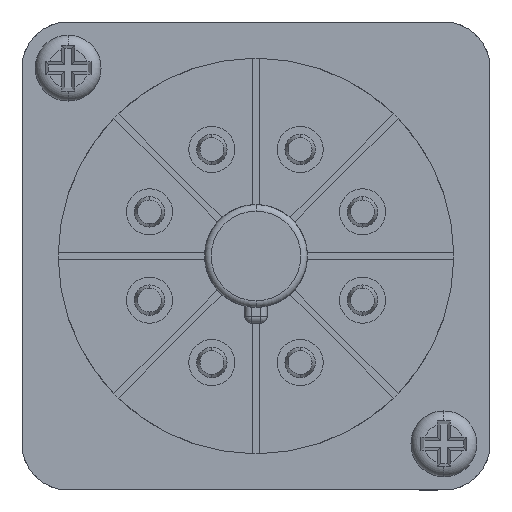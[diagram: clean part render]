
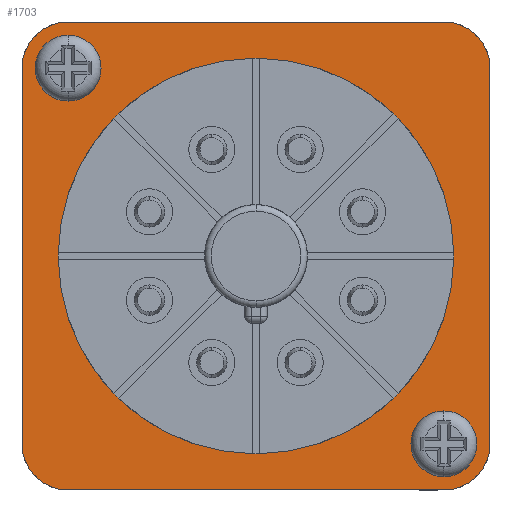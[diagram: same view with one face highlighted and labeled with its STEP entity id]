
A CAD part, front view. The second image highlights one B-rep face of the part: STEP entity #1703.
In plain terms, the highlighted planar face has unit normal (0, -1, 0).
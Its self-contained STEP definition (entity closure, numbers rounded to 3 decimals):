
#62 = EDGE_CURVE ( 'NONE', #4180, #4178, #5780, .T. ) ;
#63 = EDGE_CURVE ( 'NONE', #4183, #4182, #5783, .T. ) ;
#195 = PLANE ( 'NONE',  #2356 ) ;
#196 = CARTESIAN_POINT ( 'NONE',  ( 0., 0., 0. ) ) ;
#197 = DIRECTION ( 'NONE',  ( 0., -1., 0. ) ) ;
#198 = DIRECTION ( 'NONE',  ( 0., 0., -1. ) ) ;
#314 = CARTESIAN_POINT ( 'NONE',  ( 0., 0., 15. ) ) ;
#316 = CARTESIAN_POINT ( 'NONE',  ( 0., 0., -15. ) ) ;
#360 = CARTESIAN_POINT ( 'NONE',  ( 14.25, 0., -14.25 ) ) ;
#367 = DIRECTION ( 'NONE',  ( 0., -1., 0. ) ) ;
#368 = DIRECTION ( 'NONE',  ( -1., 0., 0. ) ) ;
#369 = CARTESIAN_POINT ( 'NONE',  ( -14.25, 0., 14.25 ) ) ;
#376 = DIRECTION ( 'NONE',  ( 0., -1., 0. ) ) ;
#377 = DIRECTION ( 'NONE',  ( 1., 0., 0. ) ) ;
#517 = CARTESIAN_POINT ( 'NONE',  ( 0., 0., 0. ) ) ;
#521 = DIRECTION ( 'NONE',  ( 0., -1., 0. ) ) ;
#522 = DIRECTION ( 'NONE',  ( 0., 0., -1. ) ) ;
#686 = LINE ( 'NONE', #687, #2649 ) ;
#687 = CARTESIAN_POINT ( 'NONE',  ( -17.75, 0., -17.75 ) ) ;
#688 = DIRECTION ( 'NONE',  ( -1., 0., 0. ) ) ;
#1600 = EDGE_CURVE ( 'NONE', #4193, #4192, #6191, .T. ) ;
#1639 = EDGE_CURVE ( 'NONE', #5318, #5319, #1741, .T. ) ;
#1641 = EDGE_CURVE ( 'NONE', #5317, #5316, #1739, .T. ) ;
#1703 = ADVANCED_FACE ( 'NONE', ( #2358, #2353, #2431, #2425 ), #195, .T. ) ;
#1739 = CIRCLE ( 'NONE', #2718, 2.5 ) ;
#1741 = CIRCLE ( 'NONE', #2218, 2.5 ) ;
#1763 = CIRCLE ( 'NONE', #2299, 2.5 ) ;
#1764 = CIRCLE ( 'NONE', #2254, 2.5 ) ;
#2019 = VERTEX_POINT ( 'NONE', #314 ) ;
#2021 = VERTEX_POINT ( 'NONE', #316 ) ;
#2042 = EDGE_CURVE ( 'NONE', #5316, #5317, #1763, .T. ) ;
#2045 = EDGE_CURVE ( 'NONE', #5319, #5318, #1764, .T. ) ;
#2088 = EDGE_CURVE ( 'NONE', #2021, #2019, #3247, .T. ) ;
#2143 = EDGE_CURVE ( 'NONE', #4195, #4194, #686, .T. ) ;
#2150 = AXIS2_PLACEMENT_3D ( 'NONE', #4831, #4832, #4833 ) ;
#2205 = AXIS2_PLACEMENT_3D ( 'NONE', #517, #521, #522 ) ;
#2218 = AXIS2_PLACEMENT_3D ( 'NONE', #6187, #6224, #6225 ) ;
#2254 = AXIS2_PLACEMENT_3D ( 'NONE', #369, #376, #377 ) ;
#2299 = AXIS2_PLACEMENT_3D ( 'NONE', #360, #367, #368 ) ;
#2353 = FACE_BOUND ( 'NONE', #5535, .T. ) ;
#2356 = AXIS2_PLACEMENT_3D ( 'NONE', #196, #197, #198 ) ;
#2358 = FACE_OUTER_BOUND ( 'NONE', #5536, .T. ) ;
#2417 = VECTOR ( 'NONE', #5785, 1000. ) ;
#2421 = VECTOR ( 'NONE', #5782, 1000. ) ;
#2425 = FACE_BOUND ( 'NONE', #5533, .T. ) ;
#2431 = FACE_BOUND ( 'NONE', #5534, .T. ) ;
#2649 = VECTOR ( 'NONE', #688, 1000. ) ;
#2718 = AXIS2_PLACEMENT_3D ( 'NONE', #6229, #6230, #6231 ) ;
#2838 = VECTOR ( 'NONE', #6193, 1000. ) ;
#2962 = CIRCLE ( 'NONE', #3067, 3.5 ) ;
#2963 = CIRCLE ( 'NONE', #3070, 3.5 ) ;
#2964 = CIRCLE ( 'NONE', #3075, 3.5 ) ;
#2965 = CIRCLE ( 'NONE', #3091, 3.5 ) ;
#2971 = CIRCLE ( 'NONE', #2150, 15. ) ;
#3067 = AXIS2_PLACEMENT_3D ( 'NONE', #4780, #4781, #4782 ) ;
#3070 = AXIS2_PLACEMENT_3D ( 'NONE', #4783, #4784, #4785 ) ;
#3075 = AXIS2_PLACEMENT_3D ( 'NONE', #4786, #4787, #4788 ) ;
#3091 = AXIS2_PLACEMENT_3D ( 'NONE', #4789, #4790, #4791 ) ;
#3247 = CIRCLE ( 'NONE', #2205, 15. ) ;
#3541 = EDGE_CURVE ( 'NONE', #4193, #4194, #2962, .T. ) ;
#3542 = EDGE_CURVE ( 'NONE', #4195, #4182, #2963, .T. ) ;
#3543 = EDGE_CURVE ( 'NONE', #4180, #4192, #2964, .T. ) ;
#3544 = EDGE_CURVE ( 'NONE', #4183, #4178, #2965, .T. ) ;
#3558 = EDGE_CURVE ( 'NONE', #2019, #2021, #2971, .T. ) ;
#4178 = VERTEX_POINT ( 'NONE', #4922 ) ;
#4180 = VERTEX_POINT ( 'NONE', #4924 ) ;
#4182 = VERTEX_POINT ( 'NONE', #4926 ) ;
#4183 = VERTEX_POINT ( 'NONE', #4927 ) ;
#4192 = VERTEX_POINT ( 'NONE', #4936 ) ;
#4193 = VERTEX_POINT ( 'NONE', #4937 ) ;
#4194 = VERTEX_POINT ( 'NONE', #4938 ) ;
#4195 = VERTEX_POINT ( 'NONE', #4939 ) ;
#4780 = CARTESIAN_POINT ( 'NONE',  ( -14.25, 0., -14.25 ) ) ;
#4781 = DIRECTION ( 'NONE',  ( 0., -1., 0. ) ) ;
#4782 = DIRECTION ( 'NONE',  ( 0., 0., -1. ) ) ;
#4783 = CARTESIAN_POINT ( 'NONE',  ( 14.25, 0., -14.25 ) ) ;
#4784 = DIRECTION ( 'NONE',  ( 0., -1., 0. ) ) ;
#4785 = DIRECTION ( 'NONE',  ( 0., 0., -1. ) ) ;
#4786 = CARTESIAN_POINT ( 'NONE',  ( -14.25, 0., 14.25 ) ) ;
#4787 = DIRECTION ( 'NONE',  ( 0., -1., 0. ) ) ;
#4788 = DIRECTION ( 'NONE',  ( 0., 0., -1. ) ) ;
#4789 = CARTESIAN_POINT ( 'NONE',  ( 14.25, 0., 14.25 ) ) ;
#4790 = DIRECTION ( 'NONE',  ( 0., -1., 0. ) ) ;
#4791 = DIRECTION ( 'NONE',  ( 0., 0., -1. ) ) ;
#4831 = CARTESIAN_POINT ( 'NONE',  ( 0., 0., 0. ) ) ;
#4832 = DIRECTION ( 'NONE',  ( 0., -1., 0. ) ) ;
#4833 = DIRECTION ( 'NONE',  ( 0., 0., -1. ) ) ;
#4922 = CARTESIAN_POINT ( 'NONE',  ( 14.25, 0., 17.75 ) ) ;
#4924 = CARTESIAN_POINT ( 'NONE',  ( -14.25, 0., 17.75 ) ) ;
#4926 = CARTESIAN_POINT ( 'NONE',  ( 17.75, 0., -14.25 ) ) ;
#4927 = CARTESIAN_POINT ( 'NONE',  ( 17.75, 0., 14.25 ) ) ;
#4936 = CARTESIAN_POINT ( 'NONE',  ( -17.75, 0., 14.25 ) ) ;
#4937 = CARTESIAN_POINT ( 'NONE',  ( -17.75, 0., -14.25 ) ) ;
#4938 = CARTESIAN_POINT ( 'NONE',  ( -14.25, 0., -17.75 ) ) ;
#4939 = CARTESIAN_POINT ( 'NONE',  ( 14.25, 0., -17.75 ) ) ;
#5078 = CARTESIAN_POINT ( 'NONE',  ( 14.25, 0., -16.75 ) ) ;
#5079 = CARTESIAN_POINT ( 'NONE',  ( 14.25, 0., -11.75 ) ) ;
#5080 = CARTESIAN_POINT ( 'NONE',  ( -14.25, 0., 16.75 ) ) ;
#5081 = CARTESIAN_POINT ( 'NONE',  ( -14.25, 0., 11.75 ) ) ;
#5316 = VERTEX_POINT ( 'NONE', #5078 ) ;
#5317 = VERTEX_POINT ( 'NONE', #5079 ) ;
#5318 = VERTEX_POINT ( 'NONE', #5080 ) ;
#5319 = VERTEX_POINT ( 'NONE', #5081 ) ;
#5333 = ORIENTED_EDGE ( 'NONE', *, *, #2042, .F. ) ;
#5334 = ORIENTED_EDGE ( 'NONE', *, *, #1641, .F. ) ;
#5335 = ORIENTED_EDGE ( 'NONE', *, *, #2045, .F. ) ;
#5336 = ORIENTED_EDGE ( 'NONE', *, *, #1639, .F. ) ;
#5337 = ORIENTED_EDGE ( 'NONE', *, *, #2088, .F. ) ;
#5338 = ORIENTED_EDGE ( 'NONE', *, *, #3558, .F. ) ;
#5339 = ORIENTED_EDGE ( 'NONE', *, *, #1600, .F. ) ;
#5340 = ORIENTED_EDGE ( 'NONE', *, *, #3543, .T. ) ;
#5341 = ORIENTED_EDGE ( 'NONE', *, *, #62, .F. ) ;
#5342 = ORIENTED_EDGE ( 'NONE', *, *, #3544, .T. ) ;
#5343 = ORIENTED_EDGE ( 'NONE', *, *, #3542, .T. ) ;
#5344 = ORIENTED_EDGE ( 'NONE', *, *, #2143, .F. ) ;
#5345 = ORIENTED_EDGE ( 'NONE', *, *, #3541, .T. ) ;
#5346 = ORIENTED_EDGE ( 'NONE', *, *, #63, .F. ) ;
#5533 = EDGE_LOOP ( 'NONE', ( #5334, #5333 ) ) ;
#5534 = EDGE_LOOP ( 'NONE', ( #5336, #5335 ) ) ;
#5535 = EDGE_LOOP ( 'NONE', ( #5338, #5337 ) ) ;
#5536 = EDGE_LOOP ( 'NONE', ( #5345, #5344, #5343, #5346, #5342, #5341, #5340, #5339 ) ) ;
#5780 = LINE ( 'NONE', #5781, #2421 ) ;
#5781 = CARTESIAN_POINT ( 'NONE',  ( -17.75, 0., 17.75 ) ) ;
#5782 = DIRECTION ( 'NONE',  ( 1., 0., 0. ) ) ;
#5783 = LINE ( 'NONE', #5784, #2417 ) ;
#5784 = CARTESIAN_POINT ( 'NONE',  ( 17.75, 0., 17.75 ) ) ;
#5785 = DIRECTION ( 'NONE',  ( 0., 0., -1. ) ) ;
#6187 = CARTESIAN_POINT ( 'NONE',  ( -14.25, 0., 14.25 ) ) ;
#6191 = LINE ( 'NONE', #6192, #2838 ) ;
#6192 = CARTESIAN_POINT ( 'NONE',  ( -17.75, 0., 17.75 ) ) ;
#6193 = DIRECTION ( 'NONE',  ( 0., 0., 1. ) ) ;
#6224 = DIRECTION ( 'NONE',  ( 0., -1., 0. ) ) ;
#6225 = DIRECTION ( 'NONE',  ( 1., 0., 0. ) ) ;
#6229 = CARTESIAN_POINT ( 'NONE',  ( 14.25, 0., -14.25 ) ) ;
#6230 = DIRECTION ( 'NONE',  ( 0., -1., 0. ) ) ;
#6231 = DIRECTION ( 'NONE',  ( -1., 0., 0. ) ) ;
